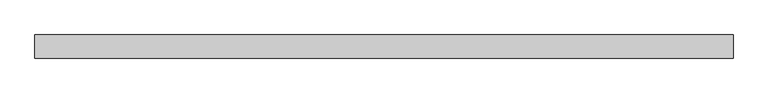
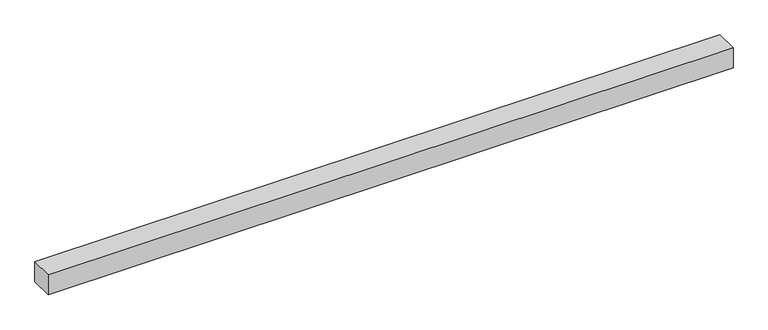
"""IFC4 building model written with IfcOpenShell, lengths in millimetres: light fixture geometry, GENILED_Светильник светодиодный_Trade Linear Advanced : Trade Linear Advanced 1962x65x60 120Вт Deep Черный 4000К."""

from ifc_helpers import new_model, si_unit, frame, origin, place, context, project, spatial, polyline, outline, extrude, source, transform, mapped, element, save


def light_fixture_96eaa53e(model_context):
    return source(origin(), model_context, "Body", "SweptSolid", [
        extrude(outline(polyline([(981.0, 32.5), (981.0, -32.5), (-981.0, -32.5), (-981.0, 32.5), (981.0, 32.5)])), frame((0.0, 0.0, -60.0), z_axis=(0.0, 0.0, 1.0), x_axis=(1.0, 0.0, 0.0)), (0.0, 0.0, 1.0), 60.0),
    ])


if __name__ == "__main__":
    model = new_model("IFC4")
    model_context = context("Model", 3, world=origin())
    ifc_project = project(units=[si_unit("LENGTHUNIT", "METRE", prefix="MILLI")], contexts=[model_context])
    site = spatial("IfcSite", under=ifc_project)
    building = spatial("IfcBuilding", under=site)
    placement = place(None, origin())
    light_fixture_shape = light_fixture_96eaa53e(model_context)
    element("IfcLightFixture", 1, ObjectType="GENILED_Светильник светодиодный_Trade Linear Advanced : Trade Linear Advanced 1962x65x60 120Вт Deep Черный 4000К", at=placement, inside=building, context=model_context, shape_type="MappedRepresentation", body=[
        mapped(light_fixture_shape, transform((0.0, 0.0, 0.0), x_axis=(1.0, 0.0, 0.0), y_axis=(0.0, 1.0, 0.0), z_axis=(0.0, 0.0, 1.0))),
    ])
    save(model, "model.ifc")
